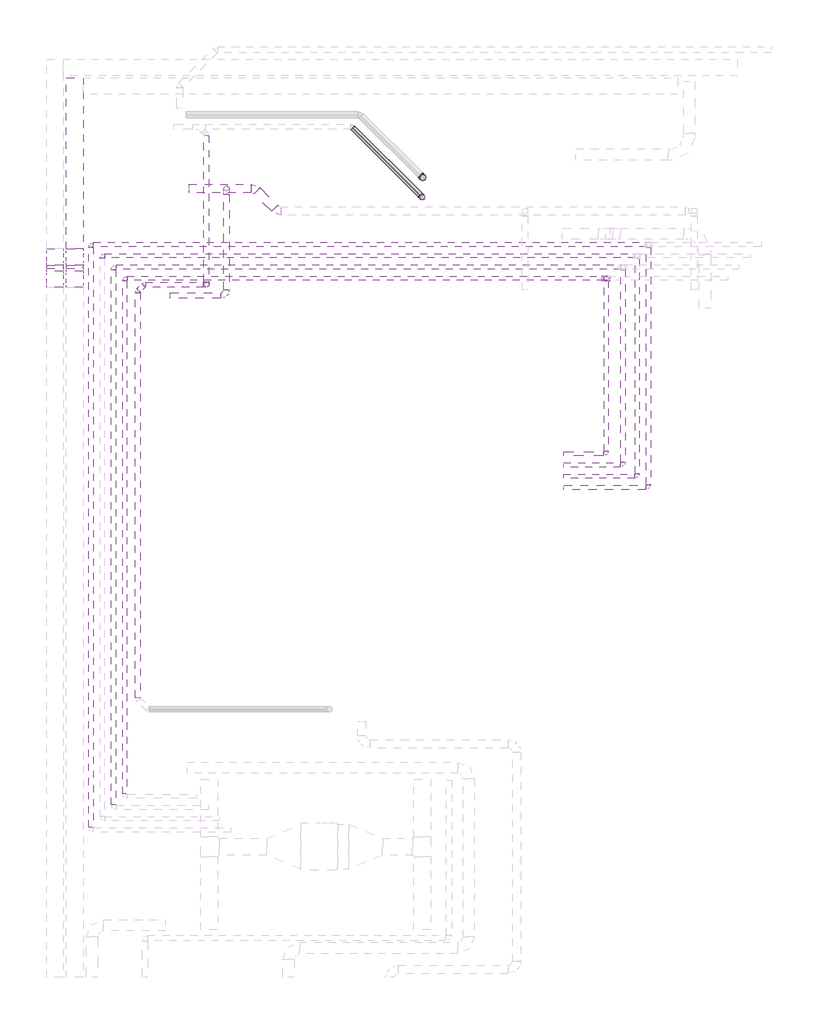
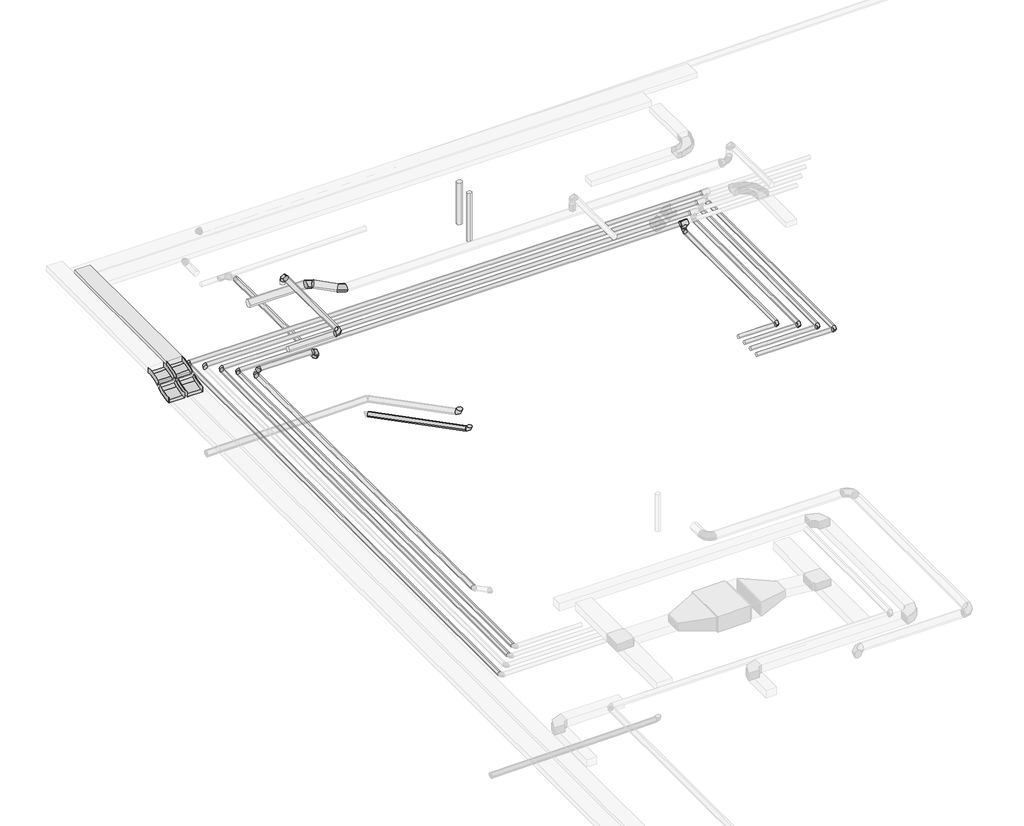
# One storey, part 4 of 5: 24 pipe segments, 16 pipe fittings, 5 duct segments, 4 cable carrier fittings, 4 duct fittings, 3 cable carrier segments.
"""IFC4 building model written with IfcOpenShell, lengths in millimetres."""

from ifc_helpers import new_model, si_unit, point, frame, frame_2d, origin, place, context, project, spatial, polyline, circle_curve, trimmed, segment, composite_curve, outline, extrude, transform, mapped, element, save
from components import m_codo_vertical_exterior_de_canal_el_c4dc7364, m_codo_vertical_interior_de_canal_el_3f65be50, m_codo_redondo_ext_1_d_85067ab4, m_codo_redondo_ext_1_d_18db741d, pipe_fitting_688cd524, pipe_fitting_7b861d32, pipe_fitting_3454c7e7, pipe_fitting_51958308, pipe_fitting_3a68447e, t_soldadura_a_enchufe_ff252817

model = new_model("IFC4")

# Units and contexts
model_context = context("Model", 3, world=origin())
ifc_project = project(units=[si_unit("LENGTHUNIT", "METRE", prefix="MILLI")], contexts=[model_context])

# Site, building, storey
site = spatial("IfcSite", under=ifc_project)
building = spatial("IfcBuilding", under=site)
storey = spatial("IfcBuildingStorey", under=building, Name="Nivell 04 P04_PP", Elevation=22410.0)

# Cable carrier fittings
placement = place(None, origin())
m_codo_vertical_exterior_de_canal_el_shape = m_codo_vertical_exterior_de_canal_el_c4dc7364(model_context)
element("IfcCableCarrierFitting", 1, ObjectType="M_Codo vertical exterior de canal : EL", at=placement, inside=storey, context=model_context, shape_type="MappedRepresentation", body=[
    mapped(m_codo_vertical_exterior_de_canal_el_shape, transform((5357.0671065, 6149.6159499, 25710.0), x_axis=(0.0, -1.0, 0.0), y_axis=(0.0, 0.0, -1.0), z_axis=(1.0, 0.0, 0.0))),
])
element("IfcCableCarrierFitting", 2, ObjectType="M_Codo vertical exterior de canal : EL", at=placement, inside=storey, context=model_context, shape_type="MappedRepresentation", body=[
    mapped(m_codo_vertical_exterior_de_canal_el_shape, transform((5008.2381883, 6149.6159499, 25710.0), x_axis=(0.0, -1.0, 0.0), y_axis=(0.0, 0.0, -1.0), z_axis=(1.0, 0.0, 0.0))),
])
m_codo_vertical_interior_de_canal_el_shape = m_codo_vertical_interior_de_canal_el_3f65be50(model_context)
element("IfcCableCarrierFitting", 3, ObjectType="M_Codo vertical interior de canal : EL", at=placement, inside=storey, context=model_context, shape_type="MappedRepresentation", body=[
    mapped(m_codo_vertical_interior_de_canal_el_shape, transform((5357.0671065, 5803.2057884, 25510.0), x_axis=(0.0, -0.8660254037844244, -0.5000000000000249), y_axis=(0.0, -0.5000000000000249, 0.8660254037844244), z_axis=(-1.0, 0.0, 0.0))),
])
element("IfcCableCarrierFitting", 4, ObjectType="M_Codo vertical interior de canal : EL", at=placement, inside=storey, context=model_context, shape_type="MappedRepresentation", body=[
    mapped(m_codo_vertical_interior_de_canal_el_shape, transform((5008.2381883, 5803.2057884, 25510.0), x_axis=(0.0, -0.8660254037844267, -0.5000000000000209), y_axis=(0.0, -0.5000000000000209, 0.8660254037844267), z_axis=(-1.0, 0.0, 0.0))),
])

# Cable carrier segments
element("IfcCableCarrierSegment", 5, ObjectType="EL", at=placement, inside=storey, context=model_context, shape_type="SweptSolid", body=[
    extrude(outline(polyline([(5207.0671065, 9356.732053), (5507.0671065, 9356.732053), (5507.0671065, 6318.3981673), (5207.0671065, 6318.3981673), (5207.0671065, 9356.732053)])), frame((0.0, 0.0, 25660.0), z_axis=(0.0, 0.0, 1.0), x_axis=(1.0, 0.0, 0.0)), (0.0, 0.0, 1.0), 100.0),
])
element("IfcCableCarrierSegment", 6, ObjectType="EL", at=placement, inside=storey, context=model_context, shape_type="SweptSolid", body=[
    extrude(outline(polyline([(0.0, -300.0), (0.0, 0.0), (62.4355653, 0.0), (62.4355653, -300.0), (0.0, -300.0)])), frame((5507.0671065, 6028.446262, 25582.3076211), z_axis=(0.0, -0.5000000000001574, 0.8660254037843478), x_axis=(0.0, -0.8660254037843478, -0.5000000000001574)), (0.0, 0.0, 1.0), 100.0),
])
element("IfcCableCarrierSegment", 7, ObjectType="EL", at=placement, inside=storey, context=model_context, shape_type="SweptSolid", body=[
    extrude(outline(polyline([(0.0, -300.0), (0.0, 0.0), (62.4355653, 0.0), (62.4355653, -300.0), (0.0, -300.0)])), frame((5158.2381883, 6028.446262, 25582.3076211), z_axis=(0.0, -0.49999999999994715, 0.8660254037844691), x_axis=(0.0, -0.8660254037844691, -0.49999999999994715)), (0.0, 0.0, 1.0), 100.0),
])

# Duct fittings
m_codo_redondo_ext_1_d_shape = m_codo_redondo_ext_1_d_85067ab4(model_context)
element("IfcDuctFitting", 8, ObjectType="M_Codo redondo : EXT_1 D", at=placement, inside=storey, context=model_context, shape_type="MappedRepresentation", body=[
    mapped(m_codo_redondo_ext_1_d_shape, transform((8050.5896993, 5490.7319202, 25860.0), x_axis=(1.0, 0.0, 0.0), y_axis=(0.0, 1.0, 0.0), z_axis=(0.0, 0.0, 1.0))),
])
element("IfcDuctFitting", 9, ObjectType="M_Codo redondo : EXT_1 D", at=placement, inside=storey, context=model_context, shape_type="MappedRepresentation", body=[
    mapped(m_codo_redondo_ext_1_d_shape, transform((8050.5896993, 7388.2772732, 25860.0), x_axis=(0.0, 1.0, 0.0), y_axis=(0.0, 0.0, -1.0), z_axis=(-1.0, 0.0, 0.0))),
])
m_codo_redondo_ext_1_d_2_shape = m_codo_redondo_ext_1_d_18db741d(model_context)
element("IfcDuctFitting", 10, ObjectType="M_Codo redondo : EXT_1 D", at=placement, inside=storey, context=model_context, shape_type="MappedRepresentation", body=[
    mapped(m_codo_redondo_ext_1_d_2_shape, transform((8950.5896993, 6992.2199701, 25515.0), x_axis=(0.7071067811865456, -0.7071067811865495, 0.0), y_axis=(0.7071067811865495, 0.7071067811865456, 0.0), z_axis=(0.0, 0.0, 1.0))),
])
element("IfcDuctFitting", 11, ObjectType="M_Codo redondo : EXT_1 D", at=placement, inside=storey, context=model_context, shape_type="MappedRepresentation", body=[
    mapped(m_codo_redondo_ext_1_d_2_shape, transform((8550.5886625, 7392.2210069, 25515.0), x_axis=(-0.7071067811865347, 0.7071067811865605, 0.0), y_axis=(-0.7071067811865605, -0.7071067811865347, 0.0), z_axis=(0.0, 0.0, 1.0))),
])

# Duct segments
element("IfcDuctSegment", 12, ObjectType="EXT_Acer Galvanitzat - Rígid", at=placement, inside=storey, context=model_context, shape_type="SweptSolid", body=[
    extrude(outline(composite_curve([segment(trimmed(circle_curve(frame_2d((5490.7319202, 25860.0)), 50.0), [point((5440.7319202, 25860.0))], [point((5490.7319202, 25910.0))], False, "CARTESIAN"), True, "CONTINUOUS"), segment(trimmed(circle_curve(frame_2d((5490.7319202, 25860.0)), 50.0), [point((5490.7319202, 25910.0))], [point((5540.7319202, 25860.0))], False, "CARTESIAN"), True, "CONTINUOUS"), segment(trimmed(circle_curve(frame_2d((5490.7319202, 25860.0)), 50.0), [point((5540.7319202, 25860.0))], [point((5490.7319202, 25810.0))], False, "CARTESIAN"), True, "CONTINUOUS"), segment(trimmed(circle_curve(frame_2d((5490.7319202, 25860.0)), 50.0), [point((5490.7319202, 25810.0))], [point((5440.7319202, 25860.0))], False, "CARTESIAN"), True, "CONTINUOUS")], self_intersect=False)), frame((7050.5896993, 0.0, 0.0), z_axis=(1.0, 0.0, 0.0), x_axis=(0.0, 1.0, 0.0)), (0.0, 0.0, 1.0), 900.0),
])
element("IfcDuctSegment", 13, ObjectType="EXT_Acer Galvanitzat - Rígid", at=placement, inside=storey, context=model_context, shape_type="SweptSolid", body=[
    extrude(outline(composite_curve([segment(trimmed(circle_curve(frame_2d((25860.0, 8050.5896993)), 50.0), [point((25860.0, 8000.5896993))], [point((25810.0, 8050.5896993))], False, "CARTESIAN"), True, "CONTINUOUS"), segment(trimmed(circle_curve(frame_2d((25860.0, 8050.5896993)), 50.0), [point((25810.0, 8050.5896993))], [point((25860.0, 8100.5896993))], False, "CARTESIAN"), True, "CONTINUOUS"), segment(trimmed(circle_curve(frame_2d((25860.0, 8050.5896993)), 50.0), [point((25860.0, 8100.5896993))], [point((25910.0, 8050.5896993))], False, "CARTESIAN"), True, "CONTINUOUS"), segment(trimmed(circle_curve(frame_2d((25860.0, 8050.5896993)), 50.0), [point((25910.0, 8050.5896993))], [point((25860.0, 8000.5896993))], False, "CARTESIAN"), True, "CONTINUOUS")], self_intersect=False)), frame((0.0, 5590.7319202, 0.0), z_axis=(0.0, 1.0, 0.0), x_axis=(0.0, 0.0, 1.0)), (0.0, 0.0, 1.0), 1697.545353),
])
element("IfcDuctSegment", 14, ObjectType="EXT_Acer Galvanitzat - Rígid", at=placement, inside=storey, context=model_context, shape_type="SweptSolid", body=[
    extrude(outline(composite_curve([segment(trimmed(circle_curve(frame_2d((8050.5896993, 7388.2772732)), 50.0), [point((8000.5896993, 7388.2772732))], [point((8050.5896993, 7438.2772732))], False, "CARTESIAN"), True, "CONTINUOUS"), segment(trimmed(circle_curve(frame_2d((8050.5896993, 7388.2772732)), 50.0), [point((8050.5896993, 7438.2772732))], [point((8100.5896993, 7388.2772732))], False, "CARTESIAN"), True, "CONTINUOUS"), segment(trimmed(circle_curve(frame_2d((8050.5896993, 7388.2772732)), 50.0), [point((8100.5896993, 7388.2772732))], [point((8050.5896993, 7338.2772732))], False, "CARTESIAN"), True, "CONTINUOUS"), segment(trimmed(circle_curve(frame_2d((8050.5896993, 7388.2772732)), 50.0), [point((8050.5896993, 7338.2772732))], [point((8000.5896993, 7388.2772732))], False, "CARTESIAN"), True, "CONTINUOUS")], self_intersect=False)), frame((0.0, 0.0, 25691.6), z_axis=(0.0, 0.0, 1.0), x_axis=(1.0, 0.0, 0.0)), (0.0, 0.0, 1.0), 68.4),
])
element("IfcDuctSegment", 15, ObjectType="EXT_Acer Galvanitzat - Rígid", at=placement, inside=storey, context=model_context, shape_type="SweptSolid", body=[
    extrude(outline(composite_curve([segment(trimmed(circle_curve(frame_2d((0.0, 75.0)), 75.0), [point((74.9999999, 75.0))], [point((0.0, 0.0))], False, "CARTESIAN"), True, "CONTINUOUS"), segment(trimmed(circle_curve(frame_2d((0.0, 75.0)), 75.0), [point((0.0, 0.0))], [point((-74.9999999, 75.0))], False, "CARTESIAN"), True, "CONTINUOUS"), segment(trimmed(circle_curve(frame_2d((0.0, 75.0)), 75.0), [point((-74.9999999, 75.0))], [point((0.0, 150.0))], False, "CARTESIAN"), True, "CONTINUOUS"), segment(trimmed(circle_curve(frame_2d((0.0, 75.0)), 75.0), [point((0.0, 150.0))], [point((74.9999999, 75.0))], False, "CARTESIAN"), True, "CONTINUOUS")], self_intersect=False)), frame((8906.6557164, 7036.153953, 25590.0), z_axis=(-0.7071067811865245, 0.7071067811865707, 0.0), x_axis=(0.7071067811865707, 0.7071067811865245, 0.0)), (0.0, 0.0, 1.0), 441.4228225),
])
element("IfcDuctSegment", 16, ObjectType="EXT_Acer Galvanitzat - Rígid", at=placement, inside=storey, context=model_context, shape_type="SweptSolid", body=[
    extrude(outline(composite_curve([segment(trimmed(circle_curve(frame_2d((7392.2210069, 25515.0)), 75.0), [point((7467.2210069, 25515.0))], [point((7392.2210069, 25440.0))], False, "CARTESIAN"), True, "CONTINUOUS"), segment(trimmed(circle_curve(frame_2d((7392.2210069, 25515.0)), 75.0), [point((7392.2210069, 25440.0))], [point((7317.2210069, 25515.0))], False, "CARTESIAN"), True, "CONTINUOUS"), segment(trimmed(circle_curve(frame_2d((7392.2210069, 25515.0)), 75.0), [point((7317.2210069, 25515.0))], [point((7392.2210069, 25590.0))], False, "CARTESIAN"), True, "CONTINUOUS"), segment(trimmed(circle_curve(frame_2d((7392.2210069, 25515.0)), 75.0), [point((7392.2210069, 25590.0))], [point((7467.2210069, 25515.0))], False, "CARTESIAN"), True, "CONTINUOUS")], self_intersect=False)), frame((7390.5886625, 0.0, 0.0), z_axis=(1.0, 0.0, 0.0), x_axis=(0.0, 1.0, 0.0)), (0.0, 0.0, 1.0), 1097.8679656),
])

# Pipe fittings
pipe_fitting_shape = pipe_fitting_688cd524(model_context)
element("IfcPipeFitting", 17, ObjectType="M_Codo - Genérico : Estándar", at=placement, inside=storey, context=model_context, shape_type="MappedRepresentation", body=[
    mapped(pipe_fitting_shape, transform((7694.809888, 5681.3632161, 25494.4034263), x_axis=(0.9999500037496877, 0.0, -0.00999950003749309), y_axis=(-0.00999950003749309, 0.0, -0.9999500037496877), z_axis=(0.0, 1.0, 0.0))),
])
element("IfcPipeFitting", 18, ObjectType="M_Codo - Genérico : Estándar", at=placement, inside=storey, context=model_context, shape_type="MappedRepresentation", body=[
    mapped(pipe_fitting_shape, transform((7694.7858287, 5681.3903035, 25365.9087684), x_axis=(0.0, 0.0, -1.0), y_axis=(0.0, 1.0, 0.0), z_axis=(1.0, 0.0, 0.0))),
])
pipe_fitting_2_shape = pipe_fitting_7b861d32(model_context)
element("IfcPipeFitting", 19, ObjectType="M_Codo - Genérico : Estándar", at=placement, inside=storey, context=model_context, shape_type="MappedRepresentation", body=[
    mapped(pipe_fitting_2_shape, transform((6597.2281105, 5681.3586411, 25505.4028763), x_axis=(-0.9999500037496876, 0.0, 0.009999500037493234), y_axis=(4.1416859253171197e-05, -0.9999914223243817, 0.004141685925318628), z_axis=(0.009999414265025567, 0.004141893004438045, 0.9999414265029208))),
])
element("IfcPipeFitting", 20, ObjectType="M_Codo - Genérico : Estándar", at=placement, inside=storey, context=model_context, shape_type="MappedRepresentation", body=[
    mapped(pipe_fitting_2_shape, transform((6477.6345979, 5561.7651285, 25507.094184), x_axis=(-0.7070714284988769, -0.7070714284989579, 0.009999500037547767), y_axis=(0.7071300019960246, -0.7070714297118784, 0.00414168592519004), z_axis=(0.00414189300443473, 0.009999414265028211, 0.9999414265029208))),
])
pipe_fitting_3_shape = pipe_fitting_3454c7e7(model_context)
element("IfcPipeFitting", 21, ObjectType="M_Codo - Genérico : Estándar", at=placement, inside=storey, context=model_context, shape_type="MappedRepresentation", body=[
    mapped(pipe_fitting_3_shape, transform((11534.5619983, 7581.1908892, 21760.0), x_axis=(0.7070714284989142, -0.7070714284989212, 0.00999950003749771), y_axis=(0.007070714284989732, -0.007070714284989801, -0.9999500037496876), z_axis=(0.707106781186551, 0.707106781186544, 0.0))),
])
pipe_fitting_4_shape = pipe_fitting_51958308(model_context)
element("IfcPipeFitting", 22, ObjectType="M_Codo - Genérico : Estándar", at=placement, inside=storey, context=model_context, shape_type="MappedRepresentation", body=[
    mapped(pipe_fitting_4_shape, transform((11525.3277949, 7233.9123781, 21632.2904279), x_axis=(0.7070714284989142, -0.7070714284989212, 0.00999950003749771), y_axis=(0.007070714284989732, -0.007070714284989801, -0.9999500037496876), z_axis=(0.707106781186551, 0.707106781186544, 0.0))),
])
pipe_fitting_5_shape = pipe_fitting_3a68447e(model_context)
element("IfcPipeFitting", 23, ObjectType="M_Codo - Genérico : Estándar", at=placement, inside=storey, context=model_context, shape_type="MappedRepresentation", body=[
    mapped(pipe_fitting_5_shape, transform((5645.7381883, 6394.2427547, 25522.5), x_axis=(-1.0, 0.0, 0.0), y_axis=(0.0, -1.0, 0.0), z_axis=(0.0, 0.0, 1.0))),
])
element("IfcPipeFitting", 24, ObjectType="M_Codo - Genérico : Estándar", at=placement, inside=storey, context=model_context, shape_type="MappedRepresentation", body=[
    mapped(pipe_fitting_5_shape, transform((5845.7381883, 6194.2427547, 25522.5), x_axis=(-1.0, 0.0, 0.0), y_axis=(0.0, -1.0, 0.0), z_axis=(0.0, 0.0, 1.0))),
])
element("IfcPipeFitting", 25, ObjectType="M_Codo - Genérico : Estándar", at=placement, inside=storey, context=model_context, shape_type="MappedRepresentation", body=[
    mapped(pipe_fitting_5_shape, transform((6045.7381883, 5994.2427547, 25522.5), x_axis=(-1.0, 0.0, 0.0), y_axis=(0.0, -1.0, 0.0), z_axis=(0.0, 0.0, 1.0))),
])
element("IfcPipeFitting", 26, ObjectType="M_Codo - Genérico : Estándar", at=placement, inside=storey, context=model_context, shape_type="MappedRepresentation", body=[
    mapped(pipe_fitting_5_shape, transform((6245.7381883, 5794.2427547, 25522.5), x_axis=(-1.0, 0.0, 0.0), y_axis=(0.0, -1.0, 0.0), z_axis=(0.0, 0.0, 1.0))),
])
element("IfcPipeFitting", 27, ObjectType="M_Codo - Genérico : Estándar", at=placement, inside=storey, context=model_context, shape_type="MappedRepresentation", body=[
    mapped(pipe_fitting_5_shape, transform((14787.4352568, 2683.4063617, 25372.5), x_axis=(1.0, 0.0, 0.0), y_axis=(0.0, 1.0, 0.0), z_axis=(0.0, 0.0, 1.0))),
])
element("IfcPipeFitting", 28, ObjectType="M_Codo - Genérico : Estándar", at=placement, inside=storey, context=model_context, shape_type="MappedRepresentation", body=[
    mapped(pipe_fitting_5_shape, transform((14787.4352568, 5794.2427547, 25372.5), x_axis=(0.0, 0.0, -1.0), y_axis=(0.0, -1.0, 0.0), z_axis=(-1.0, 0.0, 0.0))),
])
element("IfcPipeFitting", 29, ObjectType="M_Codo - Genérico : Estándar", at=placement, inside=storey, context=model_context, shape_type="MappedRepresentation", body=[
    mapped(pipe_fitting_5_shape, transform((15087.4352568, 2483.4063617, 25372.5), x_axis=(1.0, 0.0, 0.0), y_axis=(0.0, 1.0, 0.0), z_axis=(0.0, 0.0, 1.0))),
])
element("IfcPipeFitting", 30, ObjectType="M_Codo - Genérico : Estándar", at=placement, inside=storey, context=model_context, shape_type="MappedRepresentation", body=[
    mapped(pipe_fitting_5_shape, transform((15337.4352568, 2283.4063617, 25372.5), x_axis=(1.0, 0.0, 0.0), y_axis=(0.0, 1.0, 0.0), z_axis=(0.0, 0.0, 1.0))),
])
element("IfcPipeFitting", 31, ObjectType="M_Codo - Genérico : Estándar", at=placement, inside=storey, context=model_context, shape_type="MappedRepresentation", body=[
    mapped(pipe_fitting_5_shape, transform((15537.4352568, 2083.4063617, 25372.5), x_axis=(1.0, 0.0, 0.0), y_axis=(0.0, 1.0, 0.0), z_axis=(0.0, 0.0, 1.0))),
])
t_soldadura_a_enchufe_shape = t_soldadura_a_enchufe_ff252817(model_context)
element("IfcPipeFitting", 32, ObjectType="T-Soldadura a enchufe : Estándar", at=placement, inside=storey, context=model_context, shape_type="MappedRepresentation", body=[
    mapped(t_soldadura_a_enchufe_shape, transform((14787.4352568, 5794.2427547, 25522.5), x_axis=(-1.0, 0.0, 0.0), y_axis=(0.0, 0.0, 1.0), z_axis=(0.0, 1.0, 0.0))),
])

# Pipe segments
element("IfcPipeSegment", 33, ObjectType="PVC_Baixant", at=placement, inside=storey, context=model_context, shape_type="SweptSolid", body=[
    extrude(outline(composite_curve([segment(trimmed(circle_curve(frame_2d((1e-07, -45.0)), 45.0), [point((44.9977504, -44.550045))], [point((0.449955, -89.9977503))], False, "CARTESIAN"), True, "CONTINUOUS"), segment(trimmed(circle_curve(frame_2d((1e-07, -45.0)), 45.0), [point((0.449955, -89.9977503))], [point((-44.9977504, -45.449955))], False, "CARTESIAN"), True, "CONTINUOUS"), segment(trimmed(circle_curve(frame_2d((1e-07, -45.0)), 45.0), [point((-44.9977504, -45.449955))], [point((-0.449955, -0.0022496))], False, "CARTESIAN"), True, "CONTINUOUS"), segment(trimmed(circle_curve(frame_2d((1e-07, -45.0)), 45.0), [point((-0.449955, -0.0022496))], [point((44.9977504, -44.550045))], False, "CARTESIAN"), True, "CONTINUOUS")], self_intersect=False)), frame((10293.8861548, 8465.9903507, 21659.8707139), z_axis=(0.7070714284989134, -0.707071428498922, 0.00999950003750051), x_axis=(0.7071421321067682, 0.7070007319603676, -0.009998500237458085)), (0.0, 0.0, 1.0), 1689.7422983),
])
element("IfcPipeSegment", 34, ObjectType="PVC_Baixant", at=placement, inside=storey, context=model_context, shape_type="SweptSolid", body=[
    extrude(outline(composite_curve([segment(trimmed(circle_curve(frame_2d((11534.5619983, 7581.1908892)), 55.0), [point((11479.5619983, 7581.1908892))], [point((11534.5619983, 7636.1908892))], False, "CARTESIAN"), True, "CONTINUOUS"), segment(trimmed(circle_curve(frame_2d((11534.5619983, 7581.1908892)), 55.0), [point((11534.5619983, 7636.1908892))], [point((11589.5619983, 7581.1908892))], False, "CARTESIAN"), True, "CONTINUOUS"), segment(trimmed(circle_curve(frame_2d((11534.5619983, 7581.1908892)), 55.0), [point((11589.5619983, 7581.1908892))], [point((11534.5619983, 7526.1908892))], False, "CARTESIAN"), True, "CONTINUOUS"), segment(trimmed(circle_curve(frame_2d((11534.5619983, 7581.1908892)), 55.0), [point((11534.5619983, 7526.1908892))], [point((11479.5619983, 7581.1908892))], False, "CARTESIAN"), True, "CONTINUOUS")], self_intersect=False)), frame((0.0, 0.0, 25572.3112718), z_axis=(0.0, 0.0, 1.0), x_axis=(1.0, 0.0, 0.0)), (0.0, 0.0, 1.0), 837.6887282),
])
element("IfcPipeSegment", 35, ObjectType="PVC_Baixant", at=placement, inside=storey, context=model_context, shape_type="SweptSolid", body=[
    extrude(outline(composite_curve([segment(trimmed(circle_curve(frame_2d((0.0, 45.0)), 45.0), [point((-45.0, 45.0))], [point((1e-07, 90.0))], False, "CARTESIAN"), True, "CONTINUOUS"), segment(trimmed(circle_curve(frame_2d((0.0, 45.0)), 45.0), [point((1e-07, 90.0))], [point((45.0000001, 45.0))], False, "CARTESIAN"), True, "CONTINUOUS"), segment(trimmed(circle_curve(frame_2d((0.0, 45.0)), 45.0), [point((45.0000001, 45.0))], [point((0.0, 0.0))], False, "CARTESIAN"), True, "CONTINUOUS"), segment(trimmed(circle_curve(frame_2d((0.0, 45.0)), 45.0), [point((0.0, 0.0))], [point((-45.0, 45.0))], False, "CARTESIAN"), True, "CONTINUOUS")], self_intersect=False)), frame((11525.3277949, 7188.9123781, 25434.1560186), z_axis=(5.1728157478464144e-05, -1.4524516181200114e-05, 0.9999999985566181), x_axis=(0.9999999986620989, 7.513278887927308e-10, -5.1728157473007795e-05)), (0.0, 0.0, 1.0), 975.8433165),
])
element("IfcPipeSegment", 36, ObjectType="PPR_CLI_Aquatherm Blue Pipe", at=placement, inside=storey, context=model_context, shape_type="SweptSolid", body=[
    extrude(outline(composite_curve([segment(trimmed(circle_curve(frame_2d((2683.4063617, 25372.5)), 37.5), [point((2645.9063617, 25372.5))], [point((2683.4063617, 25410.0))], False, "CARTESIAN"), True, "CONTINUOUS"), segment(trimmed(circle_curve(frame_2d((2683.4063617, 25372.5)), 37.5), [point((2683.4063617, 25410.0))], [point((2720.9063617, 25372.5))], False, "CARTESIAN"), True, "CONTINUOUS"), segment(trimmed(circle_curve(frame_2d((2683.4063617, 25372.5)), 37.5), [point((2720.9063617, 25372.5))], [point((2683.4063617, 25335.0))], False, "CARTESIAN"), True, "CONTINUOUS"), segment(trimmed(circle_curve(frame_2d((2683.4063617, 25372.5)), 37.5), [point((2683.4063617, 25335.0))], [point((2645.9063617, 25372.5))], False, "CARTESIAN"), True, "CONTINUOUS")], self_intersect=False)), frame((14037.4352568, 0.0, 0.0), z_axis=(1.0, 0.0, 0.0), x_axis=(0.0, 1.0, 0.0)), (0.0, 0.0, 1.0), 704.5625),
])
element("IfcPipeSegment", 37, ObjectType="PPR_CLI_Aquatherm Blue Pipe", at=placement, inside=storey, context=model_context, shape_type="SweptSolid", body=[
    extrude(outline(composite_curve([segment(trimmed(circle_curve(frame_2d((25372.5, 14787.4352568)), 37.5), [point((25372.5, 14824.9352568))], [point((25410.0, 14787.4352568))], False, "CARTESIAN"), True, "CONTINUOUS"), segment(trimmed(circle_curve(frame_2d((25372.5, 14787.4352568)), 37.5), [point((25410.0, 14787.4352568))], [point((25372.5, 14749.9352568))], False, "CARTESIAN"), True, "CONTINUOUS"), segment(trimmed(circle_curve(frame_2d((25372.5, 14787.4352568)), 37.5), [point((25372.5, 14749.9352568))], [point((25335.0, 14787.4352568))], False, "CARTESIAN"), True, "CONTINUOUS"), segment(trimmed(circle_curve(frame_2d((25372.5, 14787.4352568)), 37.5), [point((25335.0, 14787.4352568))], [point((25372.5, 14824.9352568))], False, "CARTESIAN"), True, "CONTINUOUS")], self_intersect=False)), frame((0.0, 2728.8438617, 0.0), z_axis=(0.0, 1.0, 0.0), x_axis=(0.0, 0.0, 1.0)), (0.0, 0.0, 1.0), 3019.9613931),
])
element("IfcPipeSegment", 38, ObjectType="PPR_CLI_Aquatherm Blue Pipe", at=placement, inside=storey, context=model_context, shape_type="SweptSolid", body=[
    extrude(outline(composite_curve([segment(trimmed(circle_curve(frame_2d((2483.4063617, 25372.5)), 37.5), [point((2445.9063617, 25372.5))], [point((2483.4063617, 25410.0))], False, "CARTESIAN"), True, "CONTINUOUS"), segment(trimmed(circle_curve(frame_2d((2483.4063617, 25372.5)), 37.5), [point((2483.4063617, 25410.0))], [point((2520.9063617, 25372.5))], False, "CARTESIAN"), True, "CONTINUOUS"), segment(trimmed(circle_curve(frame_2d((2483.4063617, 25372.5)), 37.5), [point((2520.9063617, 25372.5))], [point((2483.4063617, 25335.0))], False, "CARTESIAN"), True, "CONTINUOUS"), segment(trimmed(circle_curve(frame_2d((2483.4063617, 25372.5)), 37.5), [point((2483.4063617, 25335.0))], [point((2445.9063617, 25372.5))], False, "CARTESIAN"), True, "CONTINUOUS")], self_intersect=False)), frame((14037.4352568, 0.0, 0.0), z_axis=(1.0, 0.0, 0.0), x_axis=(0.0, 1.0, 0.0)), (0.0, 0.0, 1.0), 1004.5625),
])
element("IfcPipeSegment", 39, ObjectType="PPR_CLI_Aquatherm Blue Pipe", at=placement, inside=storey, context=model_context, shape_type="SweptSolid", body=[
    extrude(outline(composite_curve([segment(trimmed(circle_curve(frame_2d((25372.5, 15087.4352568)), 37.5), [point((25372.5, 15124.9352568))], [point((25410.0, 15087.4352568))], False, "CARTESIAN"), True, "CONTINUOUS"), segment(trimmed(circle_curve(frame_2d((25372.5, 15087.4352568)), 37.5), [point((25410.0, 15087.4352568))], [point((25372.5, 15049.9352568))], False, "CARTESIAN"), True, "CONTINUOUS"), segment(trimmed(circle_curve(frame_2d((25372.5, 15087.4352568)), 37.5), [point((25372.5, 15049.9352568))], [point((25335.0, 15087.4352568))], False, "CARTESIAN"), True, "CONTINUOUS"), segment(trimmed(circle_curve(frame_2d((25372.5, 15087.4352568)), 37.5), [point((25335.0, 15087.4352568))], [point((25372.5, 15124.9352568))], False, "CARTESIAN"), True, "CONTINUOUS")], self_intersect=False)), frame((0.0, 2528.8438617, 0.0), z_axis=(0.0, 1.0, 0.0), x_axis=(0.0, 0.0, 1.0)), (0.0, 0.0, 1.0), 3419.9613931),
])
element("IfcPipeSegment", 40, ObjectType="PPR_CLI_Aquatherm Blue Pipe", at=placement, inside=storey, context=model_context, shape_type="SweptSolid", body=[
    extrude(outline(composite_curve([segment(trimmed(circle_curve(frame_2d((2283.4063617, 25372.5)), 37.5), [point((2245.9063617, 25372.5))], [point((2283.4063617, 25410.0))], False, "CARTESIAN"), True, "CONTINUOUS"), segment(trimmed(circle_curve(frame_2d((2283.4063617, 25372.5)), 37.5), [point((2283.4063617, 25410.0))], [point((2320.9063617, 25372.5))], False, "CARTESIAN"), True, "CONTINUOUS"), segment(trimmed(circle_curve(frame_2d((2283.4063617, 25372.5)), 37.5), [point((2320.9063617, 25372.5))], [point((2283.4063617, 25335.0))], False, "CARTESIAN"), True, "CONTINUOUS"), segment(trimmed(circle_curve(frame_2d((2283.4063617, 25372.5)), 37.5), [point((2283.4063617, 25335.0))], [point((2245.9063617, 25372.5))], False, "CARTESIAN"), True, "CONTINUOUS")], self_intersect=False)), frame((14037.4352568, 0.0, 0.0), z_axis=(1.0, 0.0, 0.0), x_axis=(0.0, 1.0, 0.0)), (0.0, 0.0, 1.0), 1254.5625),
])
element("IfcPipeSegment", 41, ObjectType="PPR_CLI_Aquatherm Blue Pipe", at=placement, inside=storey, context=model_context, shape_type="SweptSolid", body=[
    extrude(outline(composite_curve([segment(trimmed(circle_curve(frame_2d((25372.5, 15337.4352568)), 37.5), [point((25372.5, 15374.9352568))], [point((25410.0, 15337.4352568))], False, "CARTESIAN"), True, "CONTINUOUS"), segment(trimmed(circle_curve(frame_2d((25372.5, 15337.4352568)), 37.5), [point((25410.0, 15337.4352568))], [point((25372.5, 15299.9352568))], False, "CARTESIAN"), True, "CONTINUOUS"), segment(trimmed(circle_curve(frame_2d((25372.5, 15337.4352568)), 37.5), [point((25372.5, 15299.9352568))], [point((25335.0, 15337.4352568))], False, "CARTESIAN"), True, "CONTINUOUS"), segment(trimmed(circle_curve(frame_2d((25372.5, 15337.4352568)), 37.5), [point((25335.0, 15337.4352568))], [point((25372.5, 15374.9352568))], False, "CARTESIAN"), True, "CONTINUOUS")], self_intersect=False)), frame((0.0, 2328.8438617, 0.0), z_axis=(0.0, 1.0, 0.0), x_axis=(0.0, 0.0, 1.0)), (0.0, 0.0, 1.0), 3819.9613931),
])
element("IfcPipeSegment", 42, ObjectType="PPR_CLI_Aquatherm Blue Pipe", at=placement, inside=storey, context=model_context, shape_type="SweptSolid", body=[
    extrude(outline(composite_curve([segment(trimmed(circle_curve(frame_2d((2083.4063617, 25372.5)), 37.5), [point((2045.9063617, 25372.5))], [point((2083.4063617, 25410.0))], False, "CARTESIAN"), True, "CONTINUOUS"), segment(trimmed(circle_curve(frame_2d((2083.4063617, 25372.5)), 37.5), [point((2083.4063617, 25410.0))], [point((2120.9063617, 25372.5))], False, "CARTESIAN"), True, "CONTINUOUS"), segment(trimmed(circle_curve(frame_2d((2083.4063617, 25372.5)), 37.5), [point((2120.9063617, 25372.5))], [point((2083.4063617, 25335.0))], False, "CARTESIAN"), True, "CONTINUOUS"), segment(trimmed(circle_curve(frame_2d((2083.4063617, 25372.5)), 37.5), [point((2083.4063617, 25335.0))], [point((2045.9063617, 25372.5))], False, "CARTESIAN"), True, "CONTINUOUS")], self_intersect=False)), frame((14037.4352568, 0.0, 0.0), z_axis=(1.0, 0.0, 0.0), x_axis=(0.0, 1.0, 0.0)), (0.0, 0.0, 1.0), 1454.5625),
])
element("IfcPipeSegment", 43, ObjectType="PPR_CLI_Aquatherm Blue Pipe", at=placement, inside=storey, context=model_context, shape_type="SweptSolid", body=[
    extrude(outline(composite_curve([segment(trimmed(circle_curve(frame_2d((25372.5, 15537.4352568)), 37.5), [point((25372.5, 15574.9352568))], [point((25410.0, 15537.4352568))], False, "CARTESIAN"), True, "CONTINUOUS"), segment(trimmed(circle_curve(frame_2d((25372.5, 15537.4352568)), 37.5), [point((25410.0, 15537.4352568))], [point((25372.5, 15499.9352568))], False, "CARTESIAN"), True, "CONTINUOUS"), segment(trimmed(circle_curve(frame_2d((25372.5, 15537.4352568)), 37.5), [point((25372.5, 15499.9352568))], [point((25335.0, 15537.4352568))], False, "CARTESIAN"), True, "CONTINUOUS"), segment(trimmed(circle_curve(frame_2d((25372.5, 15537.4352568)), 37.5), [point((25335.0, 15537.4352568))], [point((25372.5, 15574.9352568))], False, "CARTESIAN"), True, "CONTINUOUS")], self_intersect=False)), frame((0.0, 2128.8438617, 0.0), z_axis=(0.0, 1.0, 0.0), x_axis=(0.0, 0.0, 1.0)), (0.0, 0.0, 1.0), 4219.9613931),
])
element("IfcPipeSegment", 44, ObjectType="PPR_CLI_Aquatherm Blue Pipe", at=placement, inside=storey, context=model_context, shape_type="SweptSolid", body=[
    extrude(outline(composite_curve([segment(trimmed(circle_curve(frame_2d((25522.5, 6245.7381883)), 37.5), [point((25522.5, 6283.2381883))], [point((25560.0, 6245.7381883))], False, "CARTESIAN"), True, "CONTINUOUS"), segment(trimmed(circle_curve(frame_2d((25522.5, 6245.7381883)), 37.5), [point((25560.0, 6245.7381883))], [point((25522.5, 6208.2381883))], False, "CARTESIAN"), True, "CONTINUOUS"), segment(trimmed(circle_curve(frame_2d((25522.5, 6245.7381883)), 37.5), [point((25522.5, 6208.2381883))], [point((25485.0, 6245.7381883))], False, "CARTESIAN"), True, "CONTINUOUS"), segment(trimmed(circle_curve(frame_2d((25522.5, 6245.7381883)), 37.5), [point((25485.0, 6245.7381883))], [point((25522.5, 6283.2381883))], False, "CARTESIAN"), True, "CONTINUOUS")], self_intersect=False)), frame((0.0, -3349.4878722, 0.0), z_axis=(0.0, 1.0, 0.0), x_axis=(0.0, 0.0, 1.0)), (0.0, 0.0, 1.0), 9098.2931269),
])
element("IfcPipeSegment", 45, ObjectType="PPR_CLI_Aquatherm Blue Pipe", at=placement, inside=storey, context=model_context, shape_type="SweptSolid", body=[
    extrude(outline(composite_curve([segment(trimmed(circle_curve(frame_2d((25522.5, 6045.7381883)), 37.5), [point((25522.5, 6083.2381883))], [point((25560.0, 6045.7381883))], False, "CARTESIAN"), True, "CONTINUOUS"), segment(trimmed(circle_curve(frame_2d((25522.5, 6045.7381883)), 37.5), [point((25560.0, 6045.7381883))], [point((25522.5, 6008.2381883))], False, "CARTESIAN"), True, "CONTINUOUS"), segment(trimmed(circle_curve(frame_2d((25522.5, 6045.7381883)), 37.5), [point((25522.5, 6008.2381883))], [point((25485.0, 6045.7381883))], False, "CARTESIAN"), True, "CONTINUOUS"), segment(trimmed(circle_curve(frame_2d((25522.5, 6045.7381883)), 37.5), [point((25485.0, 6045.7381883))], [point((25522.5, 6083.2381883))], False, "CARTESIAN"), True, "CONTINUOUS")], self_intersect=False)), frame((0.0, -3549.4878722, 0.0), z_axis=(0.0, 1.0, 0.0), x_axis=(0.0, 0.0, 1.0)), (0.0, 0.0, 1.0), 9498.2931269),
])
element("IfcPipeSegment", 46, ObjectType="PPR_CLI_Aquatherm Blue Pipe", at=placement, inside=storey, context=model_context, shape_type="SweptSolid", body=[
    extrude(outline(composite_curve([segment(trimmed(circle_curve(frame_2d((25522.5, 5645.7381883)), 37.5), [point((25522.5, 5683.2381883))], [point((25560.0, 5645.7381883))], False, "CARTESIAN"), True, "CONTINUOUS"), segment(trimmed(circle_curve(frame_2d((25522.5, 5645.7381883)), 37.5), [point((25560.0, 5645.7381883))], [point((25522.5, 5608.2381883))], False, "CARTESIAN"), True, "CONTINUOUS"), segment(trimmed(circle_curve(frame_2d((25522.5, 5645.7381883)), 37.5), [point((25522.5, 5608.2381883))], [point((25485.0, 5645.7381883))], False, "CARTESIAN"), True, "CONTINUOUS"), segment(trimmed(circle_curve(frame_2d((25522.5, 5645.7381883)), 37.5), [point((25485.0, 5645.7381883))], [point((25522.5, 5683.2381883))], False, "CARTESIAN"), True, "CONTINUOUS")], self_intersect=False)), frame((0.0, -3949.4878722, 0.0), z_axis=(0.0, 1.0, 0.0), x_axis=(0.0, 0.0, 1.0)), (0.0, 0.0, 1.0), 10298.2931269),
])
element("IfcPipeSegment", 47, ObjectType="PPR_CLI_Aquatherm Blue Pipe", at=placement, inside=storey, context=model_context, shape_type="SweptSolid", body=[
    extrude(outline(composite_curve([segment(trimmed(circle_curve(frame_2d((14787.4352568, 5794.2427547)), 37.5), [point((14824.9352568, 5794.2427547))], [point((14787.4352568, 5756.7427547))], False, "CARTESIAN"), True, "CONTINUOUS"), segment(trimmed(circle_curve(frame_2d((14787.4352568, 5794.2427547)), 37.5), [point((14787.4352568, 5756.7427547))], [point((14749.9352568, 5794.2427547))], False, "CARTESIAN"), True, "CONTINUOUS"), segment(trimmed(circle_curve(frame_2d((14787.4352568, 5794.2427547)), 37.5), [point((14749.9352568, 5794.2427547))], [point((14787.4352568, 5831.7427547))], False, "CARTESIAN"), True, "CONTINUOUS"), segment(trimmed(circle_curve(frame_2d((14787.4352568, 5794.2427547)), 37.5), [point((14787.4352568, 5831.7427547))], [point((14824.9352568, 5794.2427547))], False, "CARTESIAN"), True, "CONTINUOUS")], self_intersect=False)), frame((0.0, 0.0, 25417.9375), z_axis=(0.0, 0.0, 1.0), x_axis=(1.0, 0.0, 0.0)), (0.0, 0.0, 1.0), 66.0625),
])
element("IfcPipeSegment", 48, ObjectType="PPR_CLI_Aquatherm Blue Pipe", at=placement, inside=storey, context=model_context, shape_type="SweptSolid", body=[
    extrude(outline(composite_curve([segment(trimmed(circle_curve(frame_2d((5794.2427547, 25522.5)), 37.5), [point((5756.7427547, 25522.5))], [point((5794.2427547, 25560.0))], False, "CARTESIAN"), True, "CONTINUOUS"), segment(trimmed(circle_curve(frame_2d((5794.2427547, 25522.5)), 37.5), [point((5794.2427547, 25560.0))], [point((5831.7427547, 25522.5))], False, "CARTESIAN"), True, "CONTINUOUS"), segment(trimmed(circle_curve(frame_2d((5794.2427547, 25522.5)), 37.5), [point((5831.7427547, 25522.5))], [point((5794.2427547, 25485.0))], False, "CARTESIAN"), True, "CONTINUOUS"), segment(trimmed(circle_curve(frame_2d((5794.2427547, 25522.5)), 37.5), [point((5794.2427547, 25485.0))], [point((5756.7427547, 25522.5))], False, "CARTESIAN"), True, "CONTINUOUS")], self_intersect=False)), frame((6291.1756883, 0.0, 0.0), z_axis=(1.0, 0.0, 0.0), x_axis=(0.0, 1.0, 0.0)), (0.0, 0.0, 1.0), 8457.7595685),
])
element("IfcPipeSegment", 49, ObjectType="PPR_CLI_Aquatherm Blue Pipe", at=placement, inside=storey, context=model_context, shape_type="SweptSolid", body=[
    extrude(outline(composite_curve([segment(trimmed(circle_curve(frame_2d((5994.2427547, 25522.5)), 37.5), [point((5956.7427547, 25522.5))], [point((5994.2427547, 25560.0))], False, "CARTESIAN"), True, "CONTINUOUS"), segment(trimmed(circle_curve(frame_2d((5994.2427547, 25522.5)), 37.5), [point((5994.2427547, 25560.0))], [point((6031.7427547, 25522.5))], False, "CARTESIAN"), True, "CONTINUOUS"), segment(trimmed(circle_curve(frame_2d((5994.2427547, 25522.5)), 37.5), [point((6031.7427547, 25522.5))], [point((5994.2427547, 25485.0))], False, "CARTESIAN"), True, "CONTINUOUS"), segment(trimmed(circle_curve(frame_2d((5994.2427547, 25522.5)), 37.5), [point((5994.2427547, 25485.0))], [point((5956.7427547, 25522.5))], False, "CARTESIAN"), True, "CONTINUOUS")], self_intersect=False)), frame((6091.1756883, 0.0, 0.0), z_axis=(1.0, 0.0, 0.0), x_axis=(0.0, 1.0, 0.0)), (0.0, 0.0, 1.0), 8957.7595685),
])
element("IfcPipeSegment", 50, ObjectType="PPR_CLI_Aquatherm Blue Pipe", at=placement, inside=storey, context=model_context, shape_type="SweptSolid", body=[
    extrude(outline(composite_curve([segment(trimmed(circle_curve(frame_2d((6194.2427547, 25522.5)), 37.5), [point((6156.7427547, 25522.5))], [point((6194.2427547, 25560.0))], False, "CARTESIAN"), True, "CONTINUOUS"), segment(trimmed(circle_curve(frame_2d((6194.2427547, 25522.5)), 37.5), [point((6194.2427547, 25560.0))], [point((6231.7427547, 25522.5))], False, "CARTESIAN"), True, "CONTINUOUS"), segment(trimmed(circle_curve(frame_2d((6194.2427547, 25522.5)), 37.5), [point((6231.7427547, 25522.5))], [point((6194.2427547, 25485.0))], False, "CARTESIAN"), True, "CONTINUOUS"), segment(trimmed(circle_curve(frame_2d((6194.2427547, 25522.5)), 37.5), [point((6194.2427547, 25485.0))], [point((6156.7427547, 25522.5))], False, "CARTESIAN"), True, "CONTINUOUS")], self_intersect=False)), frame((5891.1756883, 0.0, 0.0), z_axis=(1.0, 0.0, 0.0), x_axis=(0.0, 1.0, 0.0)), (0.0, 0.0, 1.0), 9407.7595685),
])
element("IfcPipeSegment", 51, ObjectType="PPR_CLI_Aquatherm Blue Pipe", at=placement, inside=storey, context=model_context, shape_type="SweptSolid", body=[
    extrude(outline(composite_curve([segment(trimmed(circle_curve(frame_2d((6394.2427547, 25522.5)), 37.5), [point((6356.7427547, 25522.5))], [point((6394.2427547, 25560.0))], False, "CARTESIAN"), True, "CONTINUOUS"), segment(trimmed(circle_curve(frame_2d((6394.2427547, 25522.5)), 37.5), [point((6394.2427547, 25560.0))], [point((6431.7427547, 25522.5))], False, "CARTESIAN"), True, "CONTINUOUS"), segment(trimmed(circle_curve(frame_2d((6394.2427547, 25522.5)), 37.5), [point((6431.7427547, 25522.5))], [point((6394.2427547, 25485.0))], False, "CARTESIAN"), True, "CONTINUOUS"), segment(trimmed(circle_curve(frame_2d((6394.2427547, 25522.5)), 37.5), [point((6394.2427547, 25485.0))], [point((6356.7427547, 25522.5))], False, "CARTESIAN"), True, "CONTINUOUS")], self_intersect=False)), frame((5691.1756883, 0.0, 0.0), z_axis=(1.0, 0.0, 0.0), x_axis=(0.0, 1.0, 0.0)), (0.0, 0.0, 1.0), 9807.7595685),
])
element("IfcPipeSegment", 52, ObjectType="PVC_Baixant", at=placement, inside=storey, context=model_context, shape_type="SweptSolid", body=[
    extrude(outline(composite_curve([segment(trimmed(circle_curve(frame_2d((0.0, -45.0)), 45.0), [point((0.0200592, -89.9999955))], [point((-44.9999956, -45.0200592))], False, "CARTESIAN"), True, "CONTINUOUS"), segment(trimmed(circle_curve(frame_2d((0.0, -45.0)), 45.0), [point((-44.9999956, -45.0200592))], [point((-0.0200592, -4.4e-06))], False, "CARTESIAN"), True, "CONTINUOUS"), segment(trimmed(circle_curve(frame_2d((0.0, -45.0)), 45.0), [point((-0.0200592, -4.4e-06))], [point((44.9999955, -44.9799408))], False, "CARTESIAN"), True, "CONTINUOUS"), segment(trimmed(circle_curve(frame_2d((0.0, -45.0)), 45.0), [point((44.9999955, -44.9799408))], [point((0.0200592, -89.9999955))], False, "CARTESIAN"), True, "CONTINUOUS")], self_intersect=False)), frame((7642.9462368, 5726.3632116, 25494.942121), z_axis=(-0.9999497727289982, -4.467434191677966e-06, 0.01002257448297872), x_axis=(0.010022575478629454, -0.0004457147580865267, 0.9999496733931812)), (0.0, 0.0, 1.0), 1024.0723055),
])
element("IfcPipeSegment", 53, ObjectType="PVC_Baixant", at=placement, inside=storey, context=model_context, shape_type="SweptSolid", body=[
    extrude(outline(composite_curve([segment(trimmed(circle_curve(frame_2d((0.0, -45.0)), 45.0), [point((44.9977503, -45.449955))], [point((-0.4499551, -89.9977504))], False, "CARTESIAN"), True, "CONTINUOUS"), segment(trimmed(circle_curve(frame_2d((0.0, -45.0)), 45.0), [point((-0.4499551, -89.9977504))], [point((-44.9977504, -44.550045))], False, "CARTESIAN"), True, "CONTINUOUS"), segment(trimmed(circle_curve(frame_2d((0.0, -45.0)), 45.0), [point((-44.9977504, -44.550045))], [point((0.449955, -0.0022496))], False, "CARTESIAN"), True, "CONTINUOUS"), segment(trimmed(circle_curve(frame_2d((0.0, -45.0)), 45.0), [point((0.449955, -0.0022496))], [point((44.9977503, -45.449955))], False, "CARTESIAN"), True, "CONTINUOUS")], self_intersect=False)), frame((6581.8858329, 5666.6526959, 25550.6153496), z_axis=(-0.7070714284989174, -0.7070714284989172, 0.00999950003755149), x_axis=(0.7071421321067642, -0.7070007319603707, 0.009998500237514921)), (0.0, 0.0, 1.0), 125.7425399),
])
element("IfcPipeSegment", 54, ObjectType="PVC_Baixant", at=placement, inside=storey, context=model_context, shape_type="SweptSolid", body=[
    extrude(outline(composite_curve([segment(trimmed(circle_curve(frame_2d((0.0, -45.0)), 45.0), [point((45.0, -45.0))], [point((0.0, -90.0000001))], False, "CARTESIAN"), True, "CONTINUOUS"), segment(trimmed(circle_curve(frame_2d((0.0, -45.0)), 45.0), [point((0.0, -90.0000001))], [point((-45.0, -45.0))], False, "CARTESIAN"), True, "CONTINUOUS"), segment(trimmed(circle_curve(frame_2d((0.0, -45.0)), 45.0), [point((-45.0, -45.0))], [point((0.0, 0.0))], False, "CARTESIAN"), True, "CONTINUOUS"), segment(trimmed(circle_curve(frame_2d((0.0, -45.0)), 45.0), [point((0.0, 0.0))], [point((45.0, -45.0))], False, "CARTESIAN"), True, "CONTINUOUS")], self_intersect=False)), frame((6477.6345979, 5540.5178488, 25552.3089068), z_axis=(0.0, -0.9999500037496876, 0.009999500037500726), x_axis=(1.0, 0.0, 0.0)), (0.0, 0.0, 1.0), 7185.5580094),
])
element("IfcPipeSegment", 55, ObjectType="PVC_Baixant", at=placement, inside=storey, context=model_context, shape_type="SweptSolid", body=[
    extrude(outline(composite_curve([segment(trimmed(circle_curve(frame_2d((0.0, -45.0)), 45.0), [point((-44.9999999, -44.9999522))], [point((4.79e-05, 0.0))], False, "CARTESIAN"), True, "CONTINUOUS"), segment(trimmed(circle_curve(frame_2d((0.0, -45.0)), 45.0), [point((4.79e-05, 0.0))], [point((45.0, -45.0000479))], False, "CARTESIAN"), True, "CONTINUOUS"), segment(trimmed(circle_curve(frame_2d((0.0, -45.0)), 45.0), [point((45.0, -45.0000479))], [point((-4.78e-05, -90.0))], False, "CARTESIAN"), True, "CONTINUOUS"), segment(trimmed(circle_curve(frame_2d((0.0, -45.0)), 45.0), [point((-4.78e-05, -90.0))], [point((-44.9999999, -44.9999522))], False, "CARTESIAN"), True, "CONTINUOUS")], self_intersect=False)), frame((7694.7858287, 5636.3903304, 25417.7257871), z_axis=(0.0009716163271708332, -0.0010939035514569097, 0.9999989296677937), x_axis=(-0.999999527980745, -1.0628550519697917e-06, 0.0009716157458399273)), (0.0, 0.0, 1.0), 24.7621958),
])
element("IfcPipeSegment", 56, ObjectType="PVC_Baixant", at=placement, inside=storey, context=model_context, shape_type="SweptSolid", body=[
    extrude(outline(composite_curve([segment(trimmed(circle_curve(frame_2d((0.0, 44.9999999)), 45.0), [point((-45.0, 44.9999999))], [point((0.0, 90.0))], False, "CARTESIAN"), True, "CONTINUOUS"), segment(trimmed(circle_curve(frame_2d((0.0, 44.9999999)), 45.0), [point((0.0, 90.0))], [point((45.0, 44.9999999))], False, "CARTESIAN"), True, "CONTINUOUS"), segment(trimmed(circle_curve(frame_2d((0.0, 44.9999999)), 45.0), [point((45.0, 44.9999999))], [point((0.0, 0.0))], False, "CARTESIAN"), True, "CONTINUOUS"), segment(trimmed(circle_curve(frame_2d((0.0, 44.9999999)), 45.0), [point((0.0, 0.0))], [point((-45.0, 44.9999999))], False, "CARTESIAN"), True, "CONTINUOUS")], self_intersect=False)), frame((7694.7851775, 8330.2540594, 25294.5712882), z_axis=(0.0, -0.9999500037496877, 0.009999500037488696), x_axis=(1.0, 0.0, 0.0)), (0.0, 0.0, 1.0), 2597.5784175),
])

save(model, "model.ifc")
